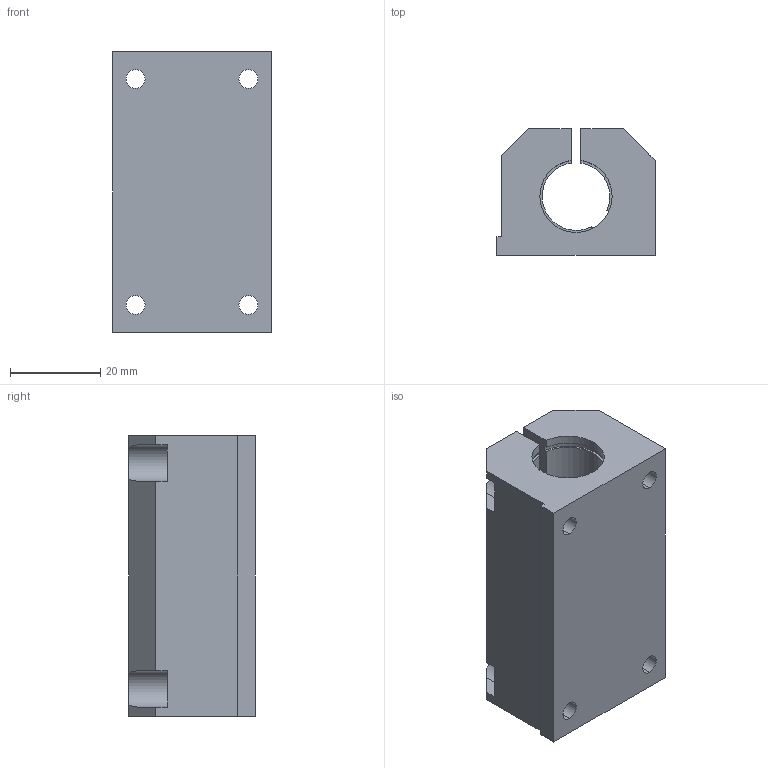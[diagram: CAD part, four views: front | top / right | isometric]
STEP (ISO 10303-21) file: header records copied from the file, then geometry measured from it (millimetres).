
FILE_DESCRIPTION (( 'STEP AP214' ), '1' );
FILE_NAME ('KTGE32-08.step', '2020-03-04T13:26:08', ( '' ), ( '' ), 'SwSTEP 2.0', 'SolidWorks 2019', '' );
FILE_SCHEMA (( 'AUTOMOTIVE_DESIGN' ));
Length unit declared in the file: millimetre
Products named in the file (1): KTGE32-08
Bounding box: 35 x 28 x 62 mm (x, y, z)
Volume: 39627.3 mm3; surface area: 14674.5 mm2
Topology: 1 solids, 1 shells, 92 faces, 269 edges, 176 vertices
Faces by surface type: cylinder 48, plane 39, cone 5
Entity records: 3321 total; most frequent: CARTESIAN_POINT 654, ORIENTED_EDGE 530, DIRECTION 521, EDGE_CURVE 265, AXIS2_PLACEMENT_3D 187, VERTEX_POINT 176, LINE 147, VECTOR 147
